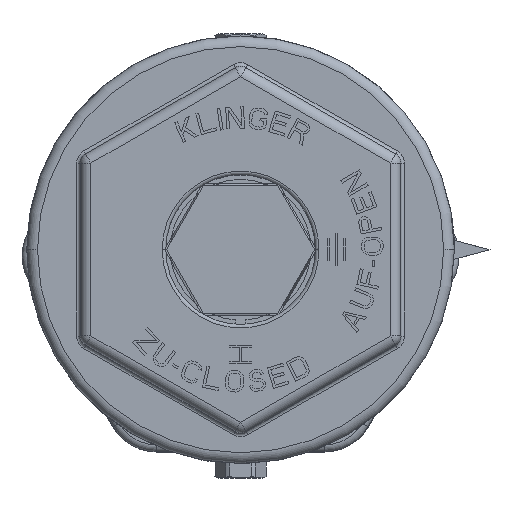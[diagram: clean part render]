
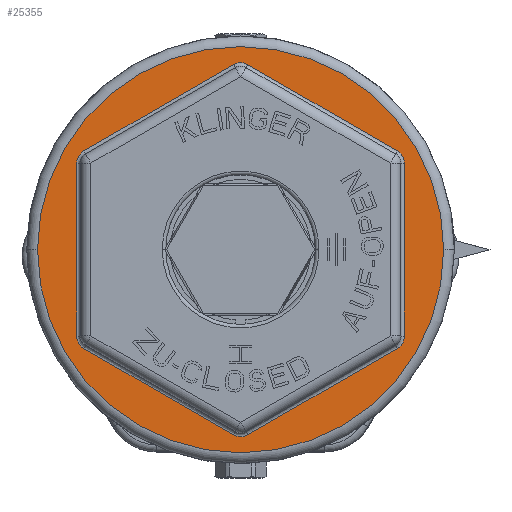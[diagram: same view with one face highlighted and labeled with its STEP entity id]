
A CAD part, top view. The second image highlights one B-rep face of the part: STEP entity #25355.
In plain terms, the highlighted planar face has unit normal (0, 0, 1).
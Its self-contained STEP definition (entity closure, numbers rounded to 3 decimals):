
#14734=CARTESIAN_POINT('',(0.,0.,9.));
#14735=DIRECTION('',(0.,0.,-1.));
#14736=DIRECTION('',(1.,0.,0.));
#14737=AXIS2_PLACEMENT_3D('',#14734,#14735,#14736);
#14739=CARTESIAN_POINT('',(0.,0.,9.));
#14740=DIRECTION('',(0.,0.,-1.));
#14741=DIRECTION('',(-1.,0.,0.));
#14742=AXIS2_PLACEMENT_3D('',#14739,#14740,#14741);
#14744=CARTESIAN_POINT('',(-42.,24.249,9.));
#14745=DIRECTION('',(0.,0.,1.));
#14746=DIRECTION('',(-0.5,0.866,0.));
#14747=AXIS2_PLACEMENT_3D('',#14744,#14745,#14746);
#14749=DIRECTION('',(0.,-1.,0.));
#14750=VECTOR('',#14749,48.497);
#14751=CARTESIAN_POINT('',(-46.,24.249,9.));
#14752=LINE('',#14751,#14750);
#14753=CARTESIAN_POINT('',(-42.,-24.249,9.));
#14754=DIRECTION('',(0.,0.,1.));
#14755=DIRECTION('',(-1.,0.,0.));
#14756=AXIS2_PLACEMENT_3D('',#14753,#14754,#14755);
#14758=DIRECTION('',(0.866,-0.5,0.));
#14759=VECTOR('',#14758,48.497);
#14760=CARTESIAN_POINT('',(-44.,-27.713,9.));
#14761=LINE('',#14760,#14759);
#14762=CARTESIAN_POINT('',(0.,-48.497,9.));
#14763=DIRECTION('',(0.,0.,1.));
#14764=DIRECTION('',(-0.5,-0.866,0.));
#14765=AXIS2_PLACEMENT_3D('',#14762,#14763,#14764);
#14767=DIRECTION('',(0.866,0.5,0.));
#14768=VECTOR('',#14767,48.497);
#14769=CARTESIAN_POINT('',(2.,-51.962,9.));
#14770=LINE('',#14769,#14768);
#14771=CARTESIAN_POINT('',(42.,-24.249,9.));
#14772=DIRECTION('',(0.,0.,1.));
#14773=DIRECTION('',(0.5,-0.866,0.));
#14774=AXIS2_PLACEMENT_3D('',#14771,#14772,#14773);
#14776=DIRECTION('',(0.,1.,0.));
#14777=VECTOR('',#14776,48.497);
#14778=CARTESIAN_POINT('',(46.,-24.249,9.));
#14779=LINE('',#14778,#14777);
#14780=CARTESIAN_POINT('',(42.,24.249,9.));
#14781=DIRECTION('',(0.,0.,1.));
#14782=DIRECTION('',(1.,0.,0.));
#14783=AXIS2_PLACEMENT_3D('',#14780,#14781,#14782);
#14785=DIRECTION('',(-0.866,0.5,0.));
#14786=VECTOR('',#14785,48.497);
#14787=CARTESIAN_POINT('',(44.,27.713,9.));
#14788=LINE('',#14787,#14786);
#14789=CARTESIAN_POINT('',(0.,48.497,9.));
#14790=DIRECTION('',(0.,0.,1.));
#14791=DIRECTION('',(0.5,0.866,0.));
#14792=AXIS2_PLACEMENT_3D('',#14789,#14790,#14791);
#14794=DIRECTION('',(-0.866,-0.5,0.));
#14795=VECTOR('',#14794,48.497);
#14796=CARTESIAN_POINT('',(-2.,51.962,9.));
#14797=LINE('',#14796,#14795);
#19903=CARTESIAN_POINT('',(57.,0.,9.));
#19904=CARTESIAN_POINT('',(-57.,0.,9.));
#19905=VERTEX_POINT('',#19903);
#19906=VERTEX_POINT('',#19904);
#21025=CARTESIAN_POINT('',(-44.,27.713,9.));
#21026=CARTESIAN_POINT('',(-46.,24.249,9.));
#21027=VERTEX_POINT('',#21025);
#21028=VERTEX_POINT('',#21026);
#21033=CARTESIAN_POINT('',(-46.,-24.249,9.));
#21034=VERTEX_POINT('',#21033);
#21037=CARTESIAN_POINT('',(-44.,-27.713,9.));
#21038=VERTEX_POINT('',#21037);
#21041=CARTESIAN_POINT('',(-2.,-51.962,9.));
#21042=VERTEX_POINT('',#21041);
#21045=CARTESIAN_POINT('',(2.,-51.962,9.));
#21046=VERTEX_POINT('',#21045);
#21049=CARTESIAN_POINT('',(44.,-27.713,9.));
#21050=VERTEX_POINT('',#21049);
#21053=CARTESIAN_POINT('',(46.,-24.249,9.));
#21054=VERTEX_POINT('',#21053);
#21057=CARTESIAN_POINT('',(46.,24.249,9.));
#21058=VERTEX_POINT('',#21057);
#21061=CARTESIAN_POINT('',(44.,27.713,9.));
#21062=VERTEX_POINT('',#21061);
#21065=CARTESIAN_POINT('',(2.,51.962,9.));
#21066=VERTEX_POINT('',#21065);
#21069=CARTESIAN_POINT('',(-2.,51.962,9.));
#21070=VERTEX_POINT('',#21069);
#25319=CARTESIAN_POINT('',(0.,0.,9.));
#25320=DIRECTION('',(0.,0.,1.));
#25321=DIRECTION('',(1.,0.,0.));
#25322=AXIS2_PLACEMENT_3D('',#25319,#25320,#25321);
#25323=PLANE('',#25322);
#25325=ORIENTED_EDGE('',*,*,#25324,.T.);
#25327=ORIENTED_EDGE('',*,*,#25326,.T.);
#25328=EDGE_LOOP('',(#25325,#25327));
#25329=FACE_OUTER_BOUND('',#25328,.F.);
#25331=ORIENTED_EDGE('',*,*,#25330,.T.);
#25333=ORIENTED_EDGE('',*,*,#25332,.T.);
#25335=ORIENTED_EDGE('',*,*,#25334,.T.);
#25337=ORIENTED_EDGE('',*,*,#25336,.T.);
#25339=ORIENTED_EDGE('',*,*,#25338,.T.);
#25341=ORIENTED_EDGE('',*,*,#25340,.T.);
#25343=ORIENTED_EDGE('',*,*,#25342,.T.);
#25345=ORIENTED_EDGE('',*,*,#25344,.T.);
#25347=ORIENTED_EDGE('',*,*,#25346,.T.);
#25349=ORIENTED_EDGE('',*,*,#25348,.T.);
#25351=ORIENTED_EDGE('',*,*,#25350,.T.);
#25352=ORIENTED_EDGE('',*,*,#25309,.T.);
#25353=EDGE_LOOP('',(#25331,#25333,#25335,#25337,#25339,#25341,#25343,#25345,
#25347,#25349,#25351,#25352));
#25354=FACE_BOUND('',#25353,.F.);
#25355=ADVANCED_FACE('',(#25329,#25354),#25323,.T.);
#14738=CIRCLE('',#14737,57.);
#14743=CIRCLE('',#14742,57.);
#14748=CIRCLE('',#14747,4.);
#14757=CIRCLE('',#14756,4.);
#14766=CIRCLE('',#14765,4.);
#14775=CIRCLE('',#14774,4.);
#14784=CIRCLE('',#14783,4.);
#14793=CIRCLE('',#14792,4.);
#25309=EDGE_CURVE('',#21070,#21027,#14797,.T.);
#25324=EDGE_CURVE('',#19905,#19906,#14738,.T.);
#25326=EDGE_CURVE('',#19906,#19905,#14743,.T.);
#25330=EDGE_CURVE('',#21027,#21028,#14748,.T.);
#25332=EDGE_CURVE('',#21028,#21034,#14752,.T.);
#25334=EDGE_CURVE('',#21034,#21038,#14757,.T.);
#25336=EDGE_CURVE('',#21038,#21042,#14761,.T.);
#25338=EDGE_CURVE('',#21042,#21046,#14766,.T.);
#25340=EDGE_CURVE('',#21046,#21050,#14770,.T.);
#25342=EDGE_CURVE('',#21050,#21054,#14775,.T.);
#25344=EDGE_CURVE('',#21054,#21058,#14779,.T.);
#25346=EDGE_CURVE('',#21058,#21062,#14784,.T.);
#25348=EDGE_CURVE('',#21062,#21066,#14788,.T.);
#25350=EDGE_CURVE('',#21066,#21070,#14793,.T.);
